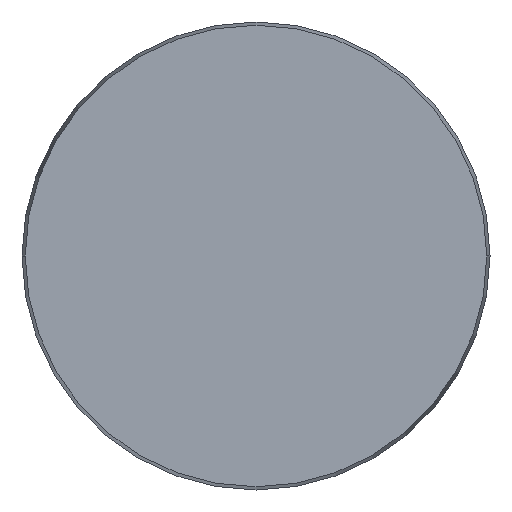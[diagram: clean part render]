
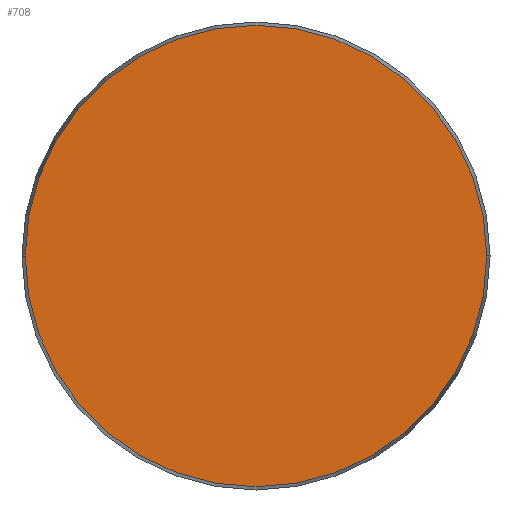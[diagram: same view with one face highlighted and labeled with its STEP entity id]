
A CAD part, front view. The second image highlights one B-rep face of the part: STEP entity #708.
In plain terms, the highlighted planar face has unit normal (0, -1, 0).
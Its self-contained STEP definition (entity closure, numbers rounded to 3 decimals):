
#22 = CIRCLE ( 'NONE', #66, 24.65 ) ;
#39 = EDGE_CURVE ( 'NONE', #631, #329, #57, .T. ) ;
#57 = CIRCLE ( 'NONE', #89, 24.65 ) ;
#66 = AXIS2_PLACEMENT_3D ( 'NONE', #243, #198, #478 ) ;
#82 = EDGE_CURVE ( 'NONE', #329, #631, #22, .T. ) ;
#89 = AXIS2_PLACEMENT_3D ( 'NONE', #535, #531, #612 ) ;
#154 = ORIENTED_EDGE ( 'NONE', *, *, #82, .F. ) ;
#198 = DIRECTION ( 'NONE',  ( 0., 1., 0. ) ) ;
#203 = EDGE_LOOP ( 'NONE', ( #154, #596 ) ) ;
#222 = CARTESIAN_POINT ( 'NONE',  ( 24.65, 0., 0. ) ) ;
#243 = CARTESIAN_POINT ( 'NONE',  ( 0., 0., 0. ) ) ;
#329 = VERTEX_POINT ( 'NONE', #670 ) ;
#478 = DIRECTION ( 'NONE',  ( -1., 0., 0. ) ) ;
#493 = FACE_OUTER_BOUND ( 'NONE', #203, .T. ) ;
#531 = DIRECTION ( 'NONE',  ( 0., 1., 0. ) ) ;
#535 = CARTESIAN_POINT ( 'NONE',  ( 0., 0., 0. ) ) ;
#596 = ORIENTED_EDGE ( 'NONE', *, *, #39, .F. ) ;
#612 = DIRECTION ( 'NONE',  ( -1., 0., 0. ) ) ;
#621 = CARTESIAN_POINT ( 'NONE',  ( 24.65, 0., 0. ) ) ;
#631 = VERTEX_POINT ( 'NONE', #621 ) ;
#660 = DIRECTION ( 'NONE',  ( 0., 0., 1. ) ) ;
#670 = CARTESIAN_POINT ( 'NONE',  ( -24.65, 0., 0. ) ) ;
#675 = DIRECTION ( 'NONE',  ( 0., 1., 0. ) ) ;
#692 = PLANE ( 'NONE',  #735 ) ;
#708 = ADVANCED_FACE ( '1', ( #493 ), #692, .F. ) ;
#735 = AXIS2_PLACEMENT_3D ( 'NONE', #222, #675, #660 ) ;
